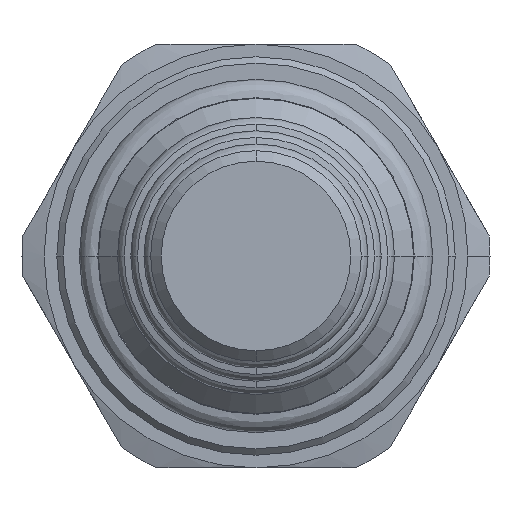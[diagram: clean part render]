
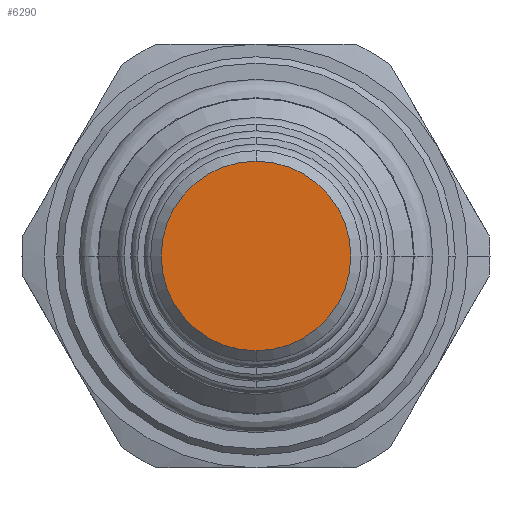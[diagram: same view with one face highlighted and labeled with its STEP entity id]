
A CAD part, front view. The second image highlights one B-rep face of the part: STEP entity #6290.
In plain terms, the highlighted planar face has unit normal (0, -1, 0).
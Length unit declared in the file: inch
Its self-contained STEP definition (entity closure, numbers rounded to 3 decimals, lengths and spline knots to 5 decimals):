
#2629=CARTESIAN_POINT('',(0.,-2.148,0.));
#2630=DIRECTION('',(0.,-1.,0.));
#2631=DIRECTION('',(0.,0.,1.));
#2632=AXIS2_PLACEMENT_3D('',#2629,#2630,#2631);
#2639=CARTESIAN_POINT('',(0.,-2.148,0.));
#2640=DIRECTION('',(0.,-1.,0.));
#2641=DIRECTION('',(0.,0.,-1.));
#2642=AXIS2_PLACEMENT_3D('',#2639,#2640,#2641);
#2785=CARTESIAN_POINT('',(0.,-2.148,0.2235));
#2786=CARTESIAN_POINT('',(0.,-2.148,-0.2235));
#2787=VERTEX_POINT('',#2785);
#2788=VERTEX_POINT('',#2786);
#6280=CARTESIAN_POINT('',(0.,-2.148,0.));
#6281=DIRECTION('',(0.,-1.,0.));
#6282=DIRECTION('',(-1.,0.,0.));
#6283=AXIS2_PLACEMENT_3D('',#6280,#6281,#6282);
#6284=PLANE('',#6283);
#6286=ORIENTED_EDGE('',*,*,#6285,.F.);
#6287=ORIENTED_EDGE('',*,*,#6270,.F.);
#6288=EDGE_LOOP('',(#6286,#6287));
#6289=FACE_OUTER_BOUND('',#6288,.F.);
#6290=ADVANCED_FACE('',(#6289),#6284,.T.);
#2633=CIRCLE('',#2632,0.2235);
#2643=CIRCLE('',#2642,0.2235);
#6270=EDGE_CURVE('',#2787,#2788,#2633,.T.);
#6285=EDGE_CURVE('',#2788,#2787,#2643,.T.);
